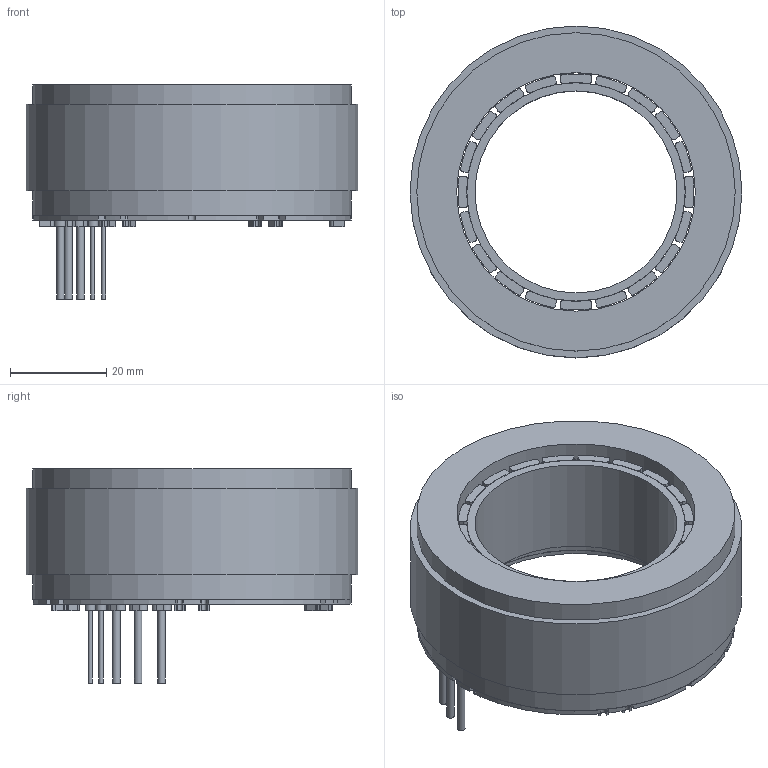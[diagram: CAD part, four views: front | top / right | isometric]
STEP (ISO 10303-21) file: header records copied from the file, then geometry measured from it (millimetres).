
FILE_DESCRIPTION( ('This file contains a STEP AP42 implementation' ,'as created by ZW3D STEP Interface translator.') ,'2;1' );
FILE_NAME( 'FM2-7018.stp' ,'25 9 5.113855', (''), ('ZWCAD Software Co.'), 'Version 1.0', 'ZW3D to STEP translator', '' );
FILE_SCHEMA(('AUTOMOTIVE_DESIGN { 1 0 10303 214 1 1 1 1 }'));
Length unit declared in the file: millimetre
Products named in the file (4): 0; FM2-7018; 7018蛌赽; 7018隅赽
Assembly tree (2 placements, depth 2):
  0
  FM2-7018
    7018蛌赽
    7018隅赽
Bounding box: 69 x 69 x 44.5 mm (x, y, z)
Volume: 57518.4 mm3; surface area: 36838.4 mm2
Topology: 47 solids, 47 shells, 454 faces, 1080 edges, 720 vertices
Faces by surface type: plane 250, cylinder 204
Full cylindrical faces by diameter (mm): 0.85 x2, 1.56 x3, 2.2 x2, 42 x1, 45.4 x1, 49.6 x3, 50 x1, 66.2 x2, 69 x1
Entity records: 14099 total; most frequent: DIRECTION 2410, CARTESIAN_POINT 2261, ORIENTED_EDGE 2160, EDGE_CURVE 1080, AXIS2_PLACEMENT_3D 869, VERTEX_POINT 720, VECTOR 672, LINE 672
